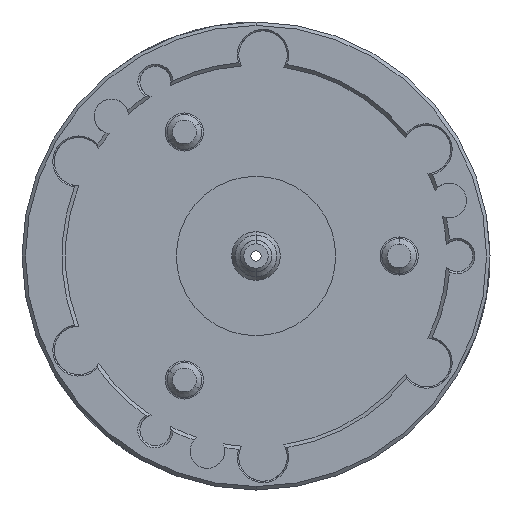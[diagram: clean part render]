
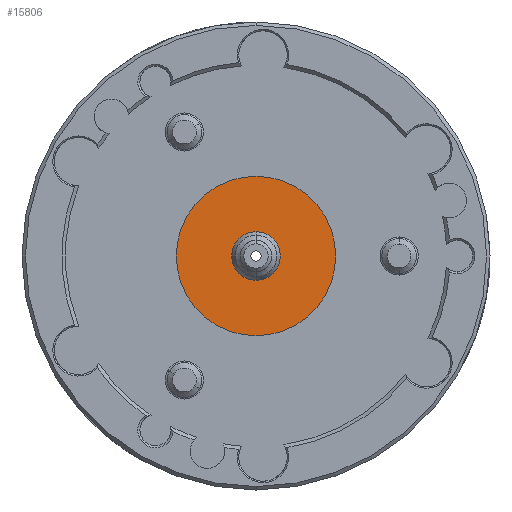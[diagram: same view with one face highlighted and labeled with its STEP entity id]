
A CAD part, left-side view. The second image highlights one B-rep face of the part: STEP entity #15806.
In plain terms, the highlighted planar face has unit normal (-1, 0, 0).
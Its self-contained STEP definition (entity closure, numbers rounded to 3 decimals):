
#7 = AXIS2_PLACEMENT_3D ( 'NONE', #19871, #50613, #24298 ) ;
#2479 = CIRCLE ( 'NONE', #7, 7. ) ;
#3306 = DIRECTION ( 'NONE',  ( 0., 0., -1. ) ) ;
#3425 = CIRCLE ( 'NONE', #14559, 23. ) ;
#3722 = DIRECTION ( 'NONE',  ( 1., 0., 0. ) ) ;
#6052 = EDGE_CURVE ( 'NONE', #31681, #48285, #3425, .T. ) ;
#6488 = FACE_OUTER_BOUND ( 'NONE', #15772, .T. ) ;
#7551 = CARTESIAN_POINT ( 'NONE',  ( -100., -23., 0. ) ) ;
#7873 = FACE_BOUND ( 'NONE', #35255, .T. ) ;
#8050 = ORIENTED_EDGE ( 'NONE', *, *, #6052, .F. ) ;
#10361 = DIRECTION ( 'NONE',  ( 1., 0., 0. ) ) ;
#13928 = EDGE_CURVE ( 'NONE', #48285, #31681, #31491, .T. ) ;
#14559 = AXIS2_PLACEMENT_3D ( 'NONE', #18878, #18674, #18098 ) ;
#15772 = EDGE_LOOP ( 'NONE', ( #40152, #8050 ) ) ;
#15806 = ADVANCED_FACE ( 'NONE', ( #7873, #6488 ), #25344, .F. ) ;
#16352 = CARTESIAN_POINT ( 'NONE',  ( -100., 0., -7. ) ) ;
#18098 = DIRECTION ( 'NONE',  ( 0., 0., -1. ) ) ;
#18674 = DIRECTION ( 'NONE',  ( 1., 0., 0. ) ) ;
#18878 = CARTESIAN_POINT ( 'NONE',  ( -100., 0., 0. ) ) ;
#19871 = CARTESIAN_POINT ( 'NONE',  ( -100., 0., 0. ) ) ;
#20199 = ORIENTED_EDGE ( 'NONE', *, *, #42422, .T. ) ;
#23421 = CARTESIAN_POINT ( 'NONE',  ( -100., 0., 23. ) ) ;
#24298 = DIRECTION ( 'NONE',  ( 0., 0., -1. ) ) ;
#24363 = ORIENTED_EDGE ( 'NONE', *, *, #30896, .T. ) ;
#25344 = PLANE ( 'NONE',  #50728 ) ;
#27919 = VERTEX_POINT ( 'NONE', #28066 ) ;
#28066 = CARTESIAN_POINT ( 'NONE',  ( -100., 0., 7. ) ) ;
#29705 = DIRECTION ( 'NONE',  ( 1., 0., 0. ) ) ;
#30139 = CARTESIAN_POINT ( 'NONE',  ( -100., 0., 0. ) ) ;
#30896 = EDGE_CURVE ( 'NONE', #27919, #40360, #2479, .T. ) ;
#31491 = CIRCLE ( 'NONE', #34031, 23. ) ;
#31681 = VERTEX_POINT ( 'NONE', #23421 ) ;
#34031 = AXIS2_PLACEMENT_3D ( 'NONE', #36715, #10361, #41158 ) ;
#34565 = DIRECTION ( 'NONE',  ( 0., 0., -1. ) ) ;
#35255 = EDGE_LOOP ( 'NONE', ( #20199, #24363 ) ) ;
#36715 = CARTESIAN_POINT ( 'NONE',  ( -100., 0., 0. ) ) ;
#40152 = ORIENTED_EDGE ( 'NONE', *, *, #13928, .F. ) ;
#40360 = VERTEX_POINT ( 'NONE', #16352 ) ;
#41158 = DIRECTION ( 'NONE',  ( 0., 0., -1. ) ) ;
#42422 = EDGE_CURVE ( 'NONE', #40360, #27919, #52632, .T. ) ;
#48285 = VERTEX_POINT ( 'NONE', #51109 ) ;
#50613 = DIRECTION ( 'NONE',  ( 1., 0., 0. ) ) ;
#50728 = AXIS2_PLACEMENT_3D ( 'NONE', #7551, #29705, #3306 ) ;
#51109 = CARTESIAN_POINT ( 'NONE',  ( -100., 0., -23. ) ) ;
#51599 = AXIS2_PLACEMENT_3D ( 'NONE', #30139, #3722, #34565 ) ;
#52632 = CIRCLE ( 'NONE', #51599, 7. ) ;
